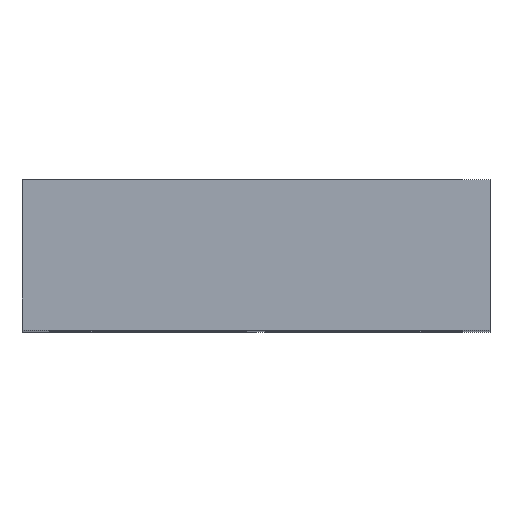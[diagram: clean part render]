
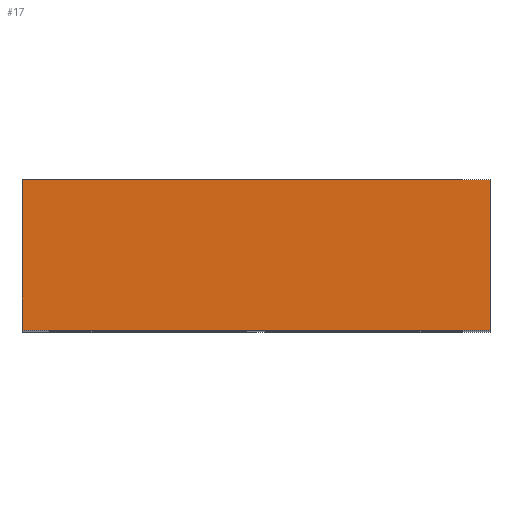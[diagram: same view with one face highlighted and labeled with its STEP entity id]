
A CAD part, top view. The second image highlights one B-rep face of the part: STEP entity #17.
In plain terms, the highlighted planar face has unit normal (0, 0, 1).
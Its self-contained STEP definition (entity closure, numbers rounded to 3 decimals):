
#17 = ADVANCED_FACE ( 'NONE', ( #136 ), #577, .F. ) ;
#27 = VERTEX_POINT ( 'NONE', #624 ) ;
#68 = EDGE_CURVE ( 'NONE', #520, #504, #214, .T. ) ;
#80 = EDGE_CURVE ( 'NONE', #506, #504, #391, .T. ) ;
#92 = AXIS2_PLACEMENT_3D ( 'NONE', #601, #607, #608 ) ;
#99 = EDGE_CURVE ( 'NONE', #27, #506, #425, .T. ) ;
#126 = EDGE_CURVE ( 'NONE', #27, #520, #462, .T. ) ;
#136 = FACE_OUTER_BOUND ( 'NONE', #209, .T. ) ;
#209 = EDGE_LOOP ( 'NONE', ( #303, #302, #301, #300 ) ) ;
#214 = LINE ( 'NONE', #674, #415 ) ;
#300 = ORIENTED_EDGE ( 'NONE', *, *, #99, .T. ) ;
#301 = ORIENTED_EDGE ( 'NONE', *, *, #126, .F. ) ;
#302 = ORIENTED_EDGE ( 'NONE', *, *, #68, .F. ) ;
#303 = ORIENTED_EDGE ( 'NONE', *, *, #80, .T. ) ;
#384 = VECTOR ( 'NONE', #699, 1000. ) ;
#391 = LINE ( 'NONE', #696, #384 ) ;
#415 = VECTOR ( 'NONE', #679, 1000. ) ;
#425 = LINE ( 'NONE', #720, #426 ) ;
#426 = VECTOR ( 'NONE', #721, 1000. ) ;
#462 = LINE ( 'NONE', #765, #463 ) ;
#463 = VECTOR ( 'NONE', #766, 1000. ) ;
#504 = VERTEX_POINT ( 'NONE', #786 ) ;
#506 = VERTEX_POINT ( 'NONE', #787 ) ;
#520 = VERTEX_POINT ( 'NONE', #801 ) ;
#577 = PLANE ( 'NONE',  #92 ) ;
#601 = CARTESIAN_POINT ( 'NONE',  ( -101., 65., 289.5 ) ) ;
#607 = DIRECTION ( 'NONE',  ( 0., 0., -1. ) ) ;
#608 = DIRECTION ( 'NONE',  ( -1., 0., 0. ) ) ;
#624 = CARTESIAN_POINT ( 'NONE',  ( -101., 65., 289.5 ) ) ;
#674 = CARTESIAN_POINT ( 'NONE',  ( 101., 65., 289.5 ) ) ;
#679 = DIRECTION ( 'NONE',  ( 0., -1., 0. ) ) ;
#696 = CARTESIAN_POINT ( 'NONE',  ( -101., 0., 289.5 ) ) ;
#699 = DIRECTION ( 'NONE',  ( 1., 0., 0. ) ) ;
#720 = CARTESIAN_POINT ( 'NONE',  ( -101., 65., 289.5 ) ) ;
#721 = DIRECTION ( 'NONE',  ( 0., -1., 0. ) ) ;
#765 = CARTESIAN_POINT ( 'NONE',  ( -101., 65., 289.5 ) ) ;
#766 = DIRECTION ( 'NONE',  ( 1., 0., 0. ) ) ;
#786 = CARTESIAN_POINT ( 'NONE',  ( 101., 0., 289.5 ) ) ;
#787 = CARTESIAN_POINT ( 'NONE',  ( -101., 0., 289.5 ) ) ;
#801 = CARTESIAN_POINT ( 'NONE',  ( 101., 65., 289.5 ) ) ;
